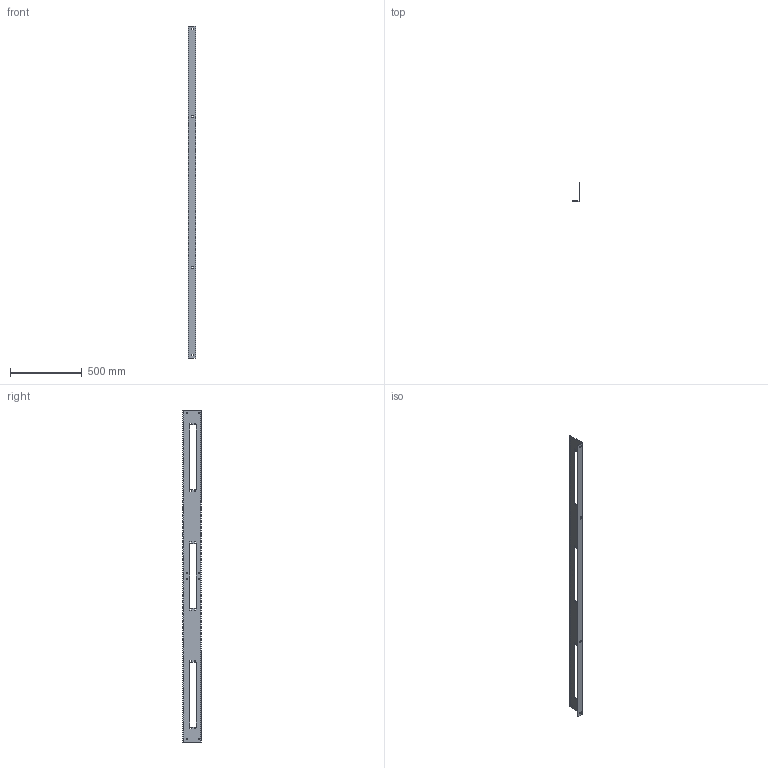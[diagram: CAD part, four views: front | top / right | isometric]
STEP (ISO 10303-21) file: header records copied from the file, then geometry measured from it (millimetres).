
FILE_DESCRIPTION(/* description */ ('Unknown'),/* implementation_level */ '2;1');
FILE_NAME(/* name */ 'H1TRR52U31BK',/* time_stamp */ '2021-03-04T15:36:42-05:00',/* author */ ('Unknown'),/* organization */ ('Unknown'),/* preprocessor_version */ 'ST-DEVELOPER v16.7',/* originating_system */ 'Solid Edge',/* authorisation */ 'Unknown');
FILE_SCHEMA (('AUTOMOTIVE_DESIGN {1 0 10303 214 3 1 1}'));
Length unit declared in the file: millimetre
Products named in the file (1): COM57450-52LB
Bounding box: 50.8 x 130.66 x 2312.16 mm (x, y, z)
Volume: 836733.6 mm3; surface area: 720325.5 mm2
Topology: 1 solids, 1 shells, 373 faces, 1232 edges, 876 vertices
Faces by surface type: cylinder 194, plane 168, bspline 11
Full cylindrical faces by diameter (mm): 4.496 x164
Entity records: 12646 total; most frequent: CARTESIAN_POINT 2609, DIRECTION 1922, ORIENTED_EDGE 1808, EDGE_LOOP 918, FACE_BOUND 918, EDGE_CURVE 904, AXIS2_PLACEMENT_3D 751, VERTEX_POINT 712
